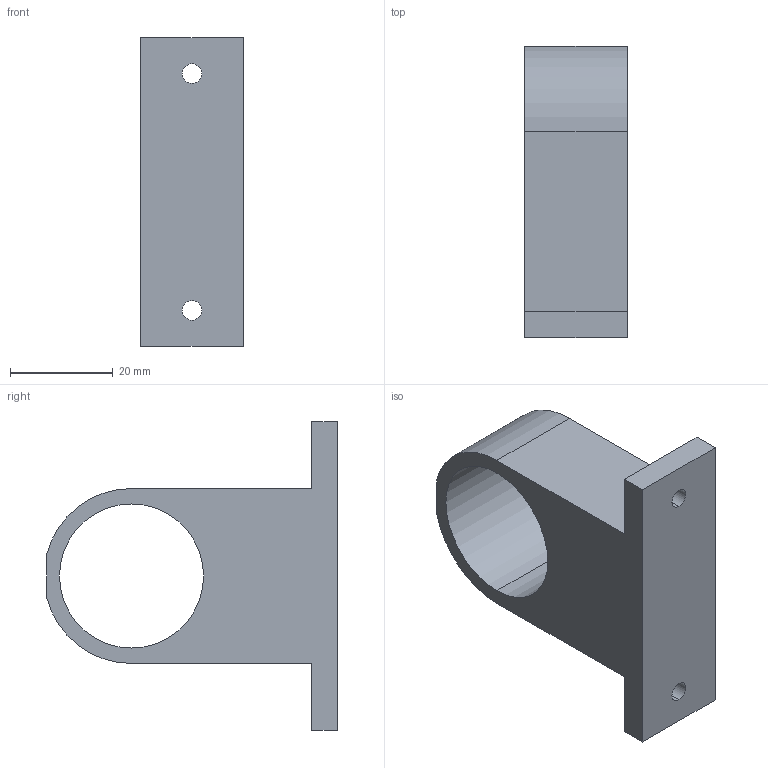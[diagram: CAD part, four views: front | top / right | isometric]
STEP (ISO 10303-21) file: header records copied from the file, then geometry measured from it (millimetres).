
FILE_DESCRIPTION (( 'STEP AP214' ), '1' );
FILE_NAME ('PJ-704B.STEP', '2023-09-12T11:24:45', ( 'catia' ), ( 'HP Inc.' ), 'SwSTEP 2.0', 'SolidWorks 2021', '' );
FILE_SCHEMA (( 'AUTOMOTIVE_DESIGN' ));
Length unit declared in the file: millimetre
Products named in the file (1): PJ-704B
Bounding box: 20 x 56.5 x 60 mm (x, y, z)
Volume: 26396 mm3; surface area: 8870.8 mm2
Topology: 1 solids, 1 shells, 18 faces, 48 edges, 32 vertices
Faces by surface type: plane 10, cylinder 8
Entity records: 614 total; most frequent: DIRECTION 102, CARTESIAN_POINT 99, ORIENTED_EDGE 96, EDGE_CURVE 48, AXIS2_PLACEMENT_3D 35, VERTEX_POINT 32, LINE 32, VECTOR 32
